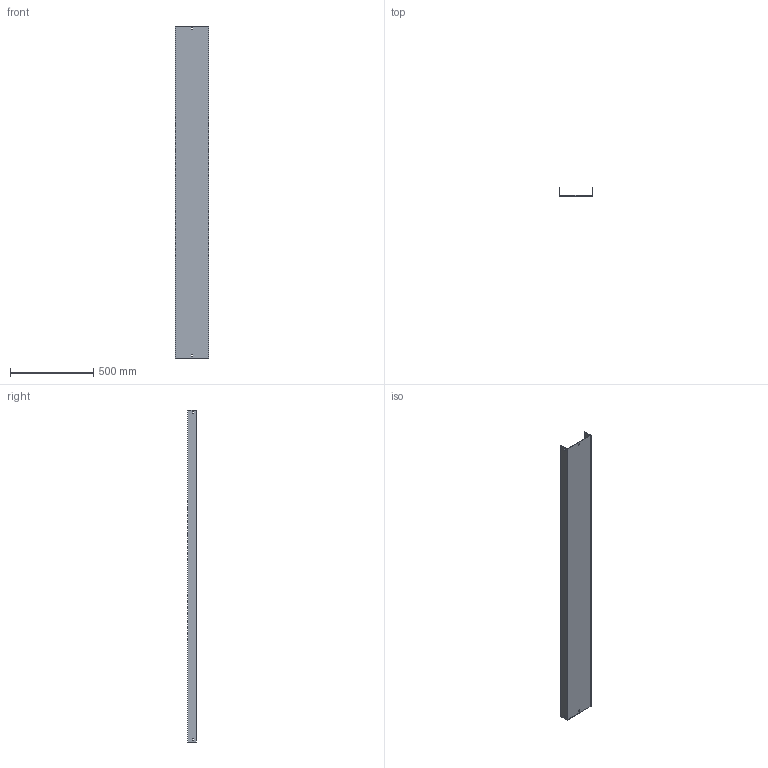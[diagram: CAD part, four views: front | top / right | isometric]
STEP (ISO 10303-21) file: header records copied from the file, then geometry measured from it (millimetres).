
FILE_DESCRIPTION (( 'STEP AP214' ), '1' );
FILE_NAME ('03F2B200.step', '2025-02-21T13:23:38', ( '' ), ( '' ), 'SwSTEP 2.0', 'SolidWorks 2023', '' );
FILE_SCHEMA (( 'AUTOMOTIVE_DESIGN' ));
Length unit declared in the file: millimetre
Products named in the file (1): 03F2B200
Bounding box: 204 x 52 x 2000 mm (x, y, z)
Volume: 2105610.5 mm3; surface area: 1220006 mm2
Topology: 1 solids, 1 shells, 34 faces, 96 edges, 64 vertices
Faces by surface type: plane 34
Entity records: 1127 total; most frequent: CARTESIAN_POINT 195, ORIENTED_EDGE 192, DIRECTION 166, LINE 96, VECTOR 96, EDGE_CURVE 96, VERTEX_POINT 64, EDGE_LOOP 46
